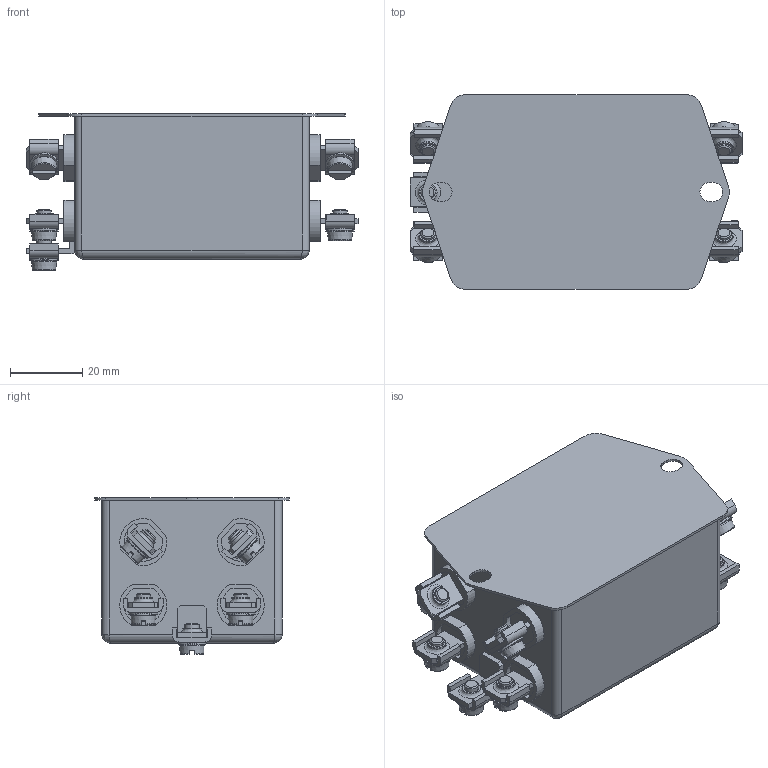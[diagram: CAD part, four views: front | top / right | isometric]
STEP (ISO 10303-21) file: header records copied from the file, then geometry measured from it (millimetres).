
FILE_DESCRIPTION((''),'2;1');
FILE_NAME('K:\Development\Product_FN\FN355\FN355-20-03 (281-901)\1_technical_file\3_technical_drawing\3D\ASD 800089 OF FN355-20-03_包覆面提取_1.stp','2012-10-24T10:34:43',('ice.li'),(''),'Autodesk Inventor 2010','Autodesk Inventor 2010','');
FILE_SCHEMA(('AUTOMOTIVE_DESIGN { 1 0 10303 214 1 1 1 1 }'));
Length unit declared in the file: millimetre
Products named in the file (1): ASD 800089 OF FN355-20-03_包覆面提取_1
Bounding box: 92 x 54 x 43.4 mm (x, y, z)
Volume: 137147.8 mm3; surface area: 24519.3 mm2
Topology: 10 solids, 10 shells, 545 faces, 1321 edges, 862 vertices
Faces by surface type: plane 320, cylinder 149, cone 36, torus 27, bspline 13
Full cylindrical faces by diameter (mm): 3.6 x9, 4 x18, 4.3 x9, 4.8 x9, 5 x8, 8 x9
Entity records: 17852 total; most frequent: CARTESIAN_POINT 4893, DIRECTION 2475, ORIENTED_EDGE 2436, EDGE_CURVE 1218, AXIS2_PLACEMENT_3D 868, VERTEX_POINT 843, EDGE_LOOP 753, VECTOR 739
